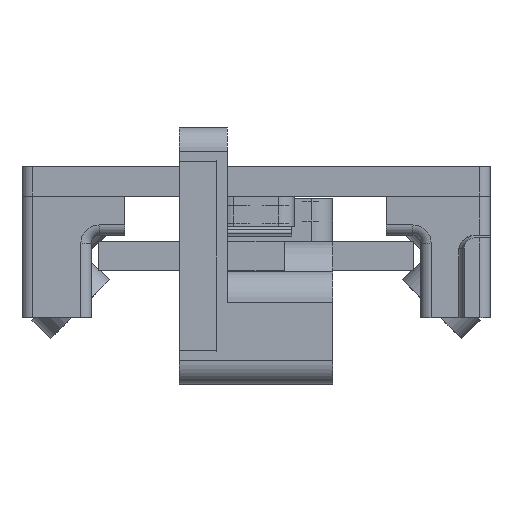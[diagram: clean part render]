
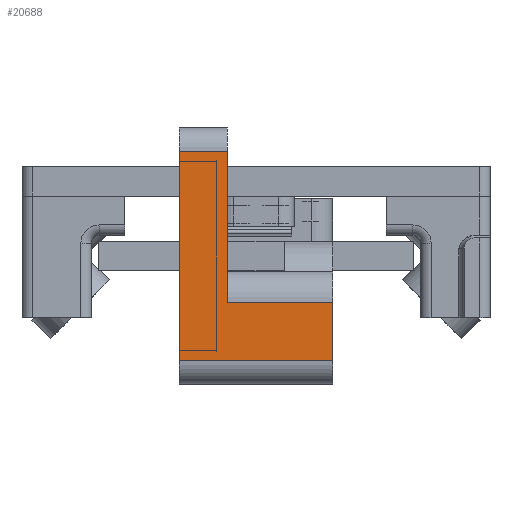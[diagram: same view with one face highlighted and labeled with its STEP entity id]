
A CAD part, front view. The second image highlights one B-rep face of the part: STEP entity #20688.
In plain terms, the highlighted planar face has unit normal (0, -1, 0).
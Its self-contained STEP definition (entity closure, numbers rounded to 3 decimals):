
#1415=PLANE('',#23147);
#2373=FACE_OUTER_BOUND('',#4251,.T.);
#4251=EDGE_LOOP('',(#18399,#18400,#18401,#18402,#18403,#18404));
#5499=LINE('',#36866,#6795);
#5548=LINE('',#37274,#6844);
#5553=LINE('',#37293,#6849);
#5554=LINE('',#37296,#6850);
#5555=LINE('',#37297,#6851);
#5556=LINE('',#37298,#6852);
#6795=VECTOR('',#28914,10.);
#6844=VECTOR('',#29087,10.);
#6849=VECTOR('',#29106,10.);
#6850=VECTOR('',#29109,10.);
#6851=VECTOR('',#29110,10.);
#6852=VECTOR('',#29111,10.);
#10073=VERTEX_POINT('',#36863);
#10074=VERTEX_POINT('',#36865);
#10148=VERTEX_POINT('',#37271);
#10149=VERTEX_POINT('',#37273);
#10156=VERTEX_POINT('',#37291);
#10157=VERTEX_POINT('',#37295);
#12825=EDGE_CURVE('',#10073,#10074,#5499,.T.);
#12928=EDGE_CURVE('',#10149,#10148,#5548,.T.);
#12939=EDGE_CURVE('',#10156,#10148,#5553,.T.);
#12940=EDGE_CURVE('',#10156,#10157,#5554,.T.);
#12941=EDGE_CURVE('',#10074,#10157,#5555,.T.);
#12942=EDGE_CURVE('',#10149,#10073,#5556,.T.);
#18399=ORIENTED_EDGE('',*,*,#12939,.F.);
#18400=ORIENTED_EDGE('',*,*,#12940,.T.);
#18401=ORIENTED_EDGE('',*,*,#12941,.F.);
#18402=ORIENTED_EDGE('',*,*,#12825,.F.);
#18403=ORIENTED_EDGE('',*,*,#12942,.F.);
#18404=ORIENTED_EDGE('',*,*,#12928,.T.);
#20688=ADVANCED_FACE('',(#2373),#1415,.T.);
#23147=AXIS2_PLACEMENT_3D('',#37294,#29107,#29108);
#28914=DIRECTION('',(0.,0.,1.));
#29087=DIRECTION('',(0.,0.,1.));
#29106=DIRECTION('',(1.,0.,0.));
#29107=DIRECTION('center_axis',(0.,-1.,0.));
#29108=DIRECTION('ref_axis',(0.,0.,1.));
#29109=DIRECTION('',(0.,0.,1.));
#29110=DIRECTION('',(1.,0.,0.));
#29111=DIRECTION('',(-1.,0.,0.));
#36863=CARTESIAN_POINT('',(15.25,-49.48,-22.97));
#36865=CARTESIAN_POINT('',(15.25,-49.48,17.33));
#36866=CARTESIAN_POINT('',(15.25,-49.48,-15.165));
#37271=CARTESIAN_POINT('',(44.75,-49.48,-11.74));
#37273=CARTESIAN_POINT('',(44.75,-49.48,-22.97));
#37274=CARTESIAN_POINT('',(44.75,-49.48,-11.182));
#37291=CARTESIAN_POINT('',(24.5,-49.48,-11.74));
#37293=CARTESIAN_POINT('',(24.5,-49.48,-11.74));
#37294=CARTESIAN_POINT('Origin',(24.5,-49.48,-27.51));
#37295=CARTESIAN_POINT('',(24.5,-49.48,17.33));
#37296=CARTESIAN_POINT('',(24.5,-49.48,-27.51));
#37297=CARTESIAN_POINT('',(24.5,-49.48,17.33));
#37298=CARTESIAN_POINT('',(24.5,-49.48,-22.97));
